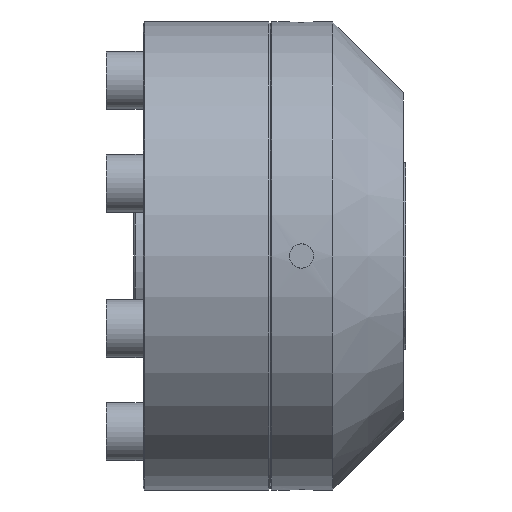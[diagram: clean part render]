
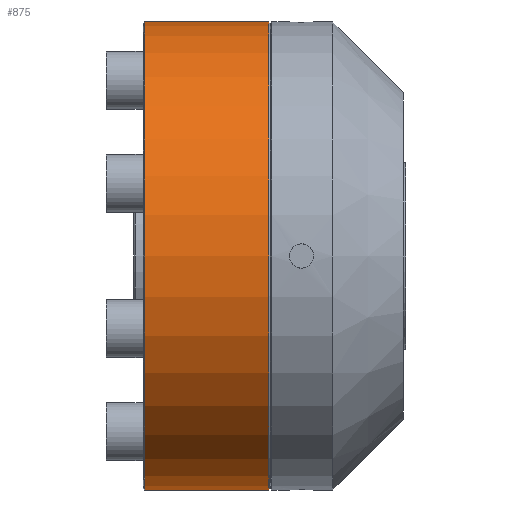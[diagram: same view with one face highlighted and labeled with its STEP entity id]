
A CAD part, left-side view. The second image highlights one B-rep face of the part: STEP entity #875.
In plain terms, the highlighted cylindrical face has radius 76.2 mm (diameter 152.4 mm), a partial arc.
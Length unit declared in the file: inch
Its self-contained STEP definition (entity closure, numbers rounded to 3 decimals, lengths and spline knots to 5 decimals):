
#260 = EDGE_CURVE ( 'NONE', #688, #674, #1421, .T. ) ;
#317 = EDGE_CURVE ( 'NONE', #714, #687, #1461, .T. ) ;
#353 = EDGE_CURVE ( 'NONE', #688, #714, #1521, .T. ) ;
#367 = EDGE_CURVE ( 'NONE', #687, #674, #1533, .T. ) ;
#413 = AXIS2_PLACEMENT_3D ( 'NONE', #1989, #1968, #1991 ) ;
#448 = AXIS2_PLACEMENT_3D ( 'NONE', #2247, #2285, #2279 ) ;
#463 = AXIS2_PLACEMENT_3D ( 'NONE', #2060, #2061, #2035 ) ;
#674 = VERTEX_POINT ( 'NONE', #2065 ) ;
#687 = VERTEX_POINT ( 'NONE', #2158 ) ;
#688 = VERTEX_POINT ( 'NONE', #2152 ) ;
#714 = VERTEX_POINT ( 'NONE', #2177 ) ;
#812 = ORIENTED_EDGE ( 'NONE', *, *, #353, .T. ) ;
#822 = ORIENTED_EDGE ( 'NONE', *, *, #260, .F. ) ;
#829 = ORIENTED_EDGE ( 'NONE', *, *, #367, .T. ) ;
#830 = ORIENTED_EDGE ( 'NONE', *, *, #317, .T. ) ;
#875 = ADVANCED_FACE ( 'NONE', ( #1586 ), #1595, .T. ) ;
#1124 = EDGE_LOOP ( 'NONE', ( #822, #812, #830, #829 ) ) ;
#1421 = LINE ( 'NONE', #1747, #1445 ) ;
#1445 = VECTOR ( 'NONE', #1733, 39.37008 ) ;
#1461 = LINE ( 'NONE', #1954, #1464 ) ;
#1464 = VECTOR ( 'NONE', #1915, 39.37008 ) ;
#1521 = CIRCLE ( 'NONE', #413, 3. ) ;
#1533 = CIRCLE ( 'NONE', #463, 3. ) ;
#1586 = FACE_OUTER_BOUND ( 'NONE', #1124, .T. ) ;
#1595 = CYLINDRICAL_SURFACE ( 'NONE', #448, 3. ) ;
#1733 = DIRECTION ( 'NONE',  ( 0., -1., 0. ) ) ;
#1747 = CARTESIAN_POINT ( 'NONE',  ( 0., 1.63, 3. ) ) ;
#1915 = DIRECTION ( 'NONE',  ( 0., -1., 0. ) ) ;
#1954 = CARTESIAN_POINT ( 'NONE',  ( 0., 1.63, -3. ) ) ;
#1968 = DIRECTION ( 'NONE',  ( 0., -1., 0. ) ) ;
#1989 = CARTESIAN_POINT ( 'NONE',  ( 0., 1.61, 0. ) ) ;
#1991 = DIRECTION ( 'NONE',  ( 0., 0., 1. ) ) ;
#2035 = DIRECTION ( 'NONE',  ( 0., 0., 1. ) ) ;
#2060 = CARTESIAN_POINT ( 'NONE',  ( 0., 0.02, 0. ) ) ;
#2061 = DIRECTION ( 'NONE',  ( 0., 1., 0. ) ) ;
#2065 = CARTESIAN_POINT ( 'NONE',  ( 0., 0.02, 3. ) ) ;
#2152 = CARTESIAN_POINT ( 'NONE',  ( 0., 1.61, 3. ) ) ;
#2158 = CARTESIAN_POINT ( 'NONE',  ( 0., 0.02, -3. ) ) ;
#2177 = CARTESIAN_POINT ( 'NONE',  ( 0., 1.61, -3. ) ) ;
#2247 = CARTESIAN_POINT ( 'NONE',  ( 0., 1.63, 0. ) ) ;
#2279 = DIRECTION ( 'NONE',  ( 0., 0., -1. ) ) ;
#2285 = DIRECTION ( 'NONE',  ( 0., -1., 0. ) ) ;
